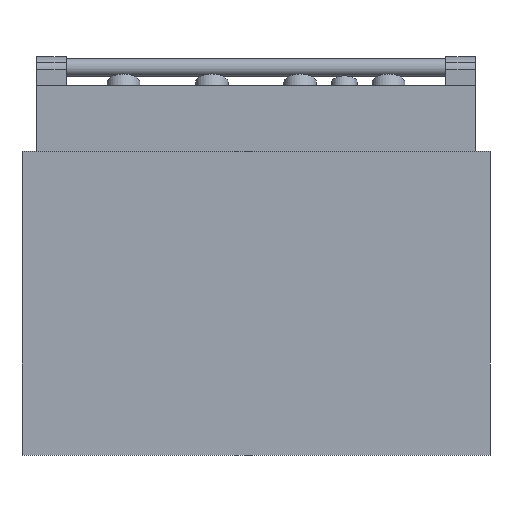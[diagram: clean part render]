
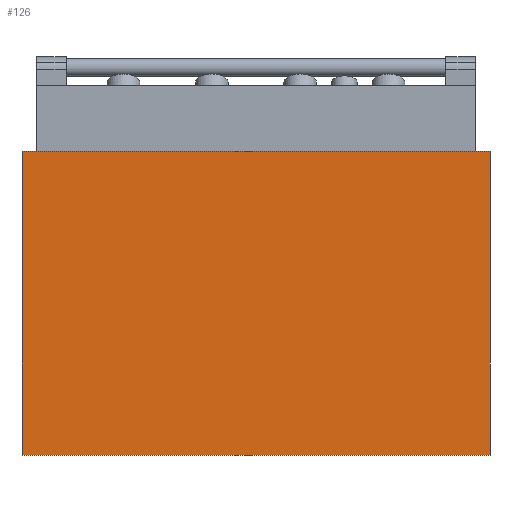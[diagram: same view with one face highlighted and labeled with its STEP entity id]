
A CAD part, front view. The second image highlights one B-rep face of the part: STEP entity #126.
In plain terms, the highlighted planar face has unit normal (0, -1, 0).
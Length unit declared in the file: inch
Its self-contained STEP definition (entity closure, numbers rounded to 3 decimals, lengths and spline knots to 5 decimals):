
#4 = FACE_OUTER_BOUND ( 'NONE', #143, .T. ) ;
#67 = CARTESIAN_POINT ( 'NONE',  ( 17.875, -11.25, -14.626 ) ) ;
#81 = LINE ( 'NONE', #91, #377 ) ;
#91 = CARTESIAN_POINT ( 'NONE',  ( 17.875, -11.25, 8.587 ) ) ;
#102 = DIRECTION ( 'NONE',  ( -1., 0., 0. ) ) ;
#126 = ADVANCED_FACE ( 'NONE', ( #4 ), #1173, .F. ) ;
#143 = EDGE_LOOP ( 'NONE', ( #439, #450, #453, #469 ) ) ;
#156 = DIRECTION ( 'NONE',  ( -1., 0., 0. ) ) ;
#211 = EDGE_CURVE ( 'NONE', #624, #399, #1353, .T. ) ;
#273 = EDGE_CURVE ( 'NONE', #667, #761, #694, .T. ) ;
#377 = VECTOR ( 'NONE', #102, 39.37008 ) ;
#399 = VERTEX_POINT ( 'NONE', #67 ) ;
#417 = CARTESIAN_POINT ( 'NONE',  ( 17.875, -11.25, 8.587 ) ) ;
#439 = ORIENTED_EDGE ( 'NONE', *, *, #273, .T. ) ;
#450 = ORIENTED_EDGE ( 'NONE', *, *, #686, .F. ) ;
#453 = ORIENTED_EDGE ( 'NONE', *, *, #211, .F. ) ;
#469 = ORIENTED_EDGE ( 'NONE', *, *, #856, .T. ) ;
#554 = DIRECTION ( 'NONE',  ( 0., 0., 1. ) ) ;
#624 = VERTEX_POINT ( 'NONE', #874 ) ;
#667 = VERTEX_POINT ( 'NONE', #1160 ) ;
#686 = EDGE_CURVE ( 'NONE', #399, #761, #901, .T. ) ;
#694 = LINE ( 'NONE', #1103, #1192 ) ;
#703 = DIRECTION ( 'NONE',  ( 0., 1., 0. ) ) ;
#761 = VERTEX_POINT ( 'NONE', #1688 ) ;
#778 = VECTOR ( 'NONE', #156, 39.37008 ) ;
#856 = EDGE_CURVE ( 'NONE', #624, #667, #81, .T. ) ;
#874 = CARTESIAN_POINT ( 'NONE',  ( 17.875, -11.25, 8.587 ) ) ;
#901 = LINE ( 'NONE', #1395, #778 ) ;
#1000 = DIRECTION ( 'NONE',  ( 0., 0., -1. ) ) ;
#1103 = CARTESIAN_POINT ( 'NONE',  ( -17.875, -11.25, 8.587 ) ) ;
#1160 = CARTESIAN_POINT ( 'NONE',  ( -17.875, -11.25, 8.587 ) ) ;
#1173 = PLANE ( 'NONE',  #1495 ) ;
#1192 = VECTOR ( 'NONE', #1556, 39.37008 ) ;
#1288 = VECTOR ( 'NONE', #1000, 39.37008 ) ;
#1353 = LINE ( 'NONE', #417, #1288 ) ;
#1395 = CARTESIAN_POINT ( 'NONE',  ( 17.875, -11.25, -14.626 ) ) ;
#1495 = AXIS2_PLACEMENT_3D ( 'NONE', #1614, #703, #554 ) ;
#1556 = DIRECTION ( 'NONE',  ( 0., 0., -1. ) ) ;
#1614 = CARTESIAN_POINT ( 'NONE',  ( 17.875, -11.25, 8.587 ) ) ;
#1688 = CARTESIAN_POINT ( 'NONE',  ( -17.875, -11.25, -14.626 ) ) ;
